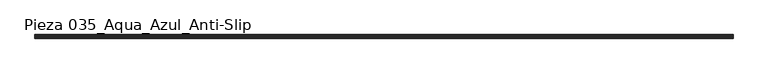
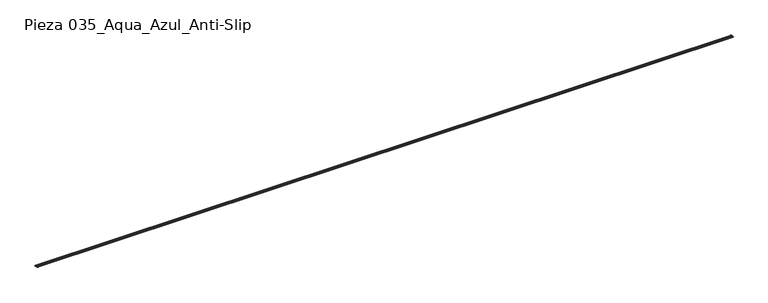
"""IFC4 building model written with IfcOpenShell, lengths in millimetres: slab geometry, ROSA GRES_035 : Pieza 035_Aqua_Azul_Anti-Slip."""

from ifc_helpers import new_model, si_unit, point, frame, frame_2d, origin, place, context, project, spatial, polyline, circle_curve, trimmed, segment, composite_curve, outline, extrude, source, transform, mapped, element, save


def pieza_035_aqua_azul_anti_slip_8805e9d7(model_context):
    return source(origin(), model_context, "Body", "SweptSolid", [
        extrude(outline(composite_curve([segment(polyline([(-511.1821026, 191.3274907), (-511.1821026, 215.3274907), (-618.1821026, 215.3274907), (-618.1821026, 227.2926815), (-613.6860009, 227.2926815)]), True, "CONTINUOUS"), segment(trimmed(circle_curve(frame_2d((-609.8807503, 231.7505669)), 5.8611155), [point((-613.6860009, 227.2926815))], [point((-605.7277929, 227.6146729))], True, "CARTESIAN"), True, "CONTINUOUS"), segment(trimmed(circle_curve(frame_2d((-601.5775039, 231.7532445)), 5.8611155), [point((-605.7277929, 227.6146729))], [point((-597.4245465, 227.6173505))], True, "CARTESIAN"), True, "CONTINUOUS"), segment(trimmed(circle_curve(frame_2d((-593.2742574, 231.7559221)), 5.8611155), [point((-597.4245465, 227.6173505))], [point((-589.1213, 227.6200281))], True, "CARTESIAN"), True, "CONTINUOUS"), segment(trimmed(circle_curve(frame_2d((-584.9710109, 231.7585998)), 5.8611155), [point((-589.1213, 227.6200281))], [point((-580.8180535, 227.6227058))], True, "CARTESIAN"), True, "CONTINUOUS"), segment(trimmed(circle_curve(frame_2d((-576.6677645, 231.7612774)), 5.8611155), [point((-580.8180535, 227.6227058))], [point((-572.5148071, 227.6253834))], True, "CARTESIAN"), True, "CONTINUOUS"), segment(trimmed(circle_curve(frame_2d((-568.364518, 231.763955)), 5.8611155), [point((-572.5148071, 227.6253834))], [point((-564.2115606, 227.628061))], True, "CARTESIAN"), True, "CONTINUOUS"), segment(trimmed(circle_curve(frame_2d((-560.0612716, 231.7666327)), 5.8611155), [point((-564.2115606, 227.628061))], [point((-555.9083142, 227.6307387))], True, "CARTESIAN"), True, "CONTINUOUS"), segment(trimmed(circle_curve(frame_2d((-551.7580251, 231.7693103)), 5.8611155), [point((-555.9083142, 227.6307387))], [point((-547.6050677, 227.6334163))], True, "CARTESIAN"), True, "CONTINUOUS"), segment(trimmed(circle_curve(frame_2d((-543.4547786, 231.7719879)), 5.8611155), [point((-547.6050677, 227.6334163))], [point((-539.3018212, 227.6360939))], True, "CARTESIAN"), True, "CONTINUOUS"), segment(trimmed(circle_curve(frame_2d((-535.1515322, 231.7746656)), 5.8611155), [point((-539.3018212, 227.6360939))], [point((-530.9985748, 227.6387716))], True, "CARTESIAN"), True, "CONTINUOUS"), segment(trimmed(circle_curve(frame_2d((-526.8482857, 231.7773432)), 5.8611155), [point((-530.9985748, 227.6387716))], [point((-522.6953283, 227.6414492))], True, "CARTESIAN"), True, "CONTINUOUS"), segment(trimmed(circle_curve(frame_2d((-518.5450393, 231.7800208)), 5.8611155), [point((-522.6953283, 227.6414492))], [point((-514.3920818, 227.6441268))], True, "CARTESIAN"), True, "CONTINUOUS"), segment(trimmed(circle_curve(frame_2d((-510.2417928, 231.7826985)), 5.8611155), [point((-514.3920818, 227.6441268))], [point((-506.4334076, 227.3274907))], True, "CARTESIAN"), True, "CONTINUOUS"), segment(polyline([(-506.4334076, 227.3274907), (-499.1821026, 227.3274907), (-499.1821026, 202.3274907), (-484.1821026, 202.3274907), (-484.1821026, 191.3274907), (-511.1821026, 191.3274907)]), True, "CONTINUOUS")], self_intersect=False)), frame((0.0, 0.0, 0.0), z_axis=(1.0, 0.0, 0.0), x_axis=(0.0, 1.0, 0.0)), (0.0, 0.0, 1.0), 25500.0),
    ])


if __name__ == "__main__":
    model = new_model("IFC4")
    model_context = context("Model", 3, world=origin())
    ifc_project = project(units=[si_unit("LENGTHUNIT", "METRE", prefix="MILLI")], contexts=[model_context])
    site = spatial("IfcSite", under=ifc_project)
    building = spatial("IfcBuilding", under=site)
    placement = place(None, origin())
    pieza_035_aqua_azul_anti_slip_shape = pieza_035_aqua_azul_anti_slip_8805e9d7(model_context)
    element("IfcSlab", 1, ObjectType="ROSA GRES_035 : Pieza 035_Aqua_Azul_Anti-Slip", at=placement, inside=building, context=model_context, shape_type="MappedRepresentation", body=[
        mapped(pieza_035_aqua_azul_anti_slip_shape, transform((0.0, 0.0, 0.0), x_axis=(1.0, 0.0, 0.0), y_axis=(0.0, 1.0, 0.0), z_axis=(0.0, 0.0, 1.0))),
    ])
    save(model, "model.ifc")
